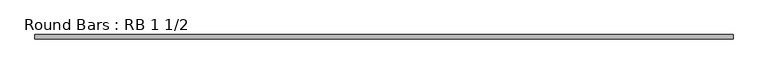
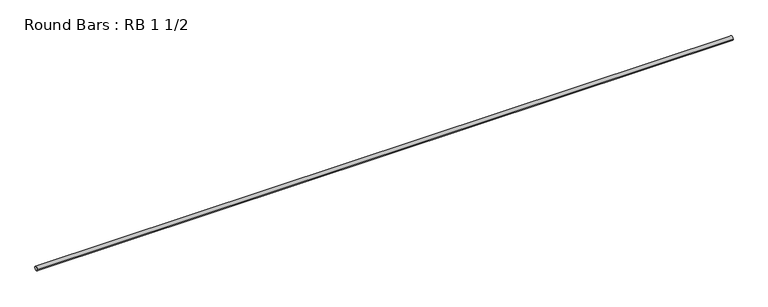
"""IFC4 building model written with IfcOpenShell, lengths in millimetres: member geometry, Round Bars : RB 1 1/2."""

from ifc_helpers import new_model, si_unit, point, frame, origin, origin_2d, place, context, project, spatial, circle_curve, trimmed, segment, composite_curve, outline, extrude, source, transform, mapped, element, save


def round_bars_rb_1_1_2_d26ad5d6(model_context):
    return source(origin(), model_context, "Body", "SweptSolid", [
        extrude(outline(composite_curve([segment(trimmed(circle_curve(origin_2d(), 19.05), [point((19.05, 0.0))], [point((-19.05, 0.0))], False, "CARTESIAN"), True, "CONTINUOUS"), segment(trimmed(circle_curve(origin_2d(), 19.05), [point((-19.05, 0.0))], [point((19.05, 0.0))], False, "CARTESIAN"), True, "CONTINUOUS")], self_intersect=False)), frame((-3101.9179982, 0.0, 0.0), z_axis=(1.0, 0.0, 0.0), x_axis=(0.0, 1.0, 0.0)), (0.0, 0.0, 1.0), 6329.5085868),
    ])


if __name__ == "__main__":
    model = new_model("IFC4")
    model_context = context("Model", 3, world=origin())
    ifc_project = project(units=[si_unit("LENGTHUNIT", "METRE", prefix="MILLI")], contexts=[model_context])
    site = spatial("IfcSite", under=ifc_project)
    building = spatial("IfcBuilding", under=site)
    placement = place(None, origin())
    round_bars_rb_1_1_2_shape = round_bars_rb_1_1_2_d26ad5d6(model_context)
    element("IfcMember", 1, ObjectType="Round Bars : RB 1 1/2", at=placement, inside=building, context=model_context, shape_type="MappedRepresentation", body=[
        mapped(round_bars_rb_1_1_2_shape, transform((0.0, 0.0, 0.0), x_axis=(1.0, 0.0, 0.0), y_axis=(0.0, 1.0, 0.0), z_axis=(0.0, 0.0, 1.0))),
    ])
    save(model, "model.ifc")
